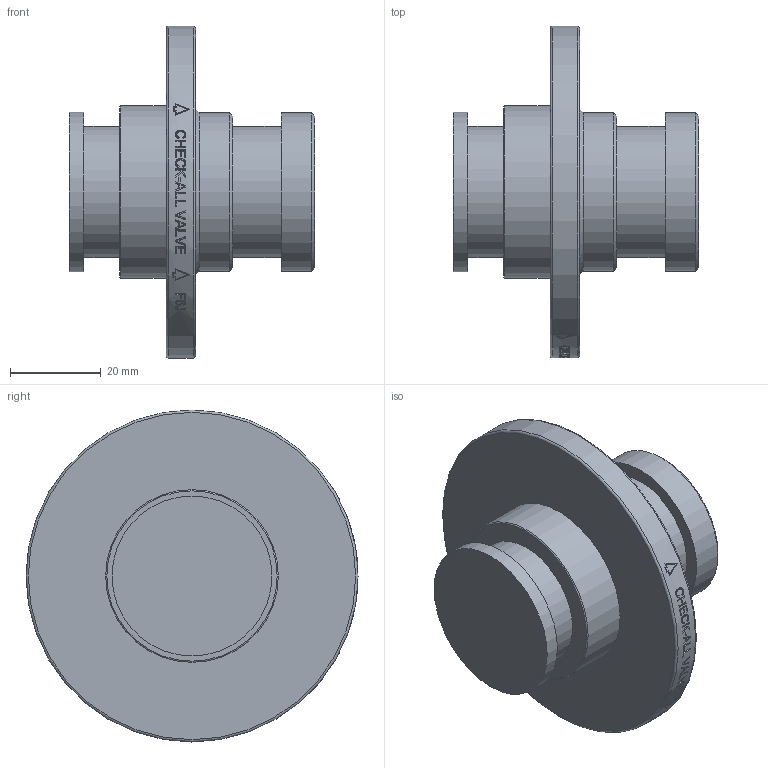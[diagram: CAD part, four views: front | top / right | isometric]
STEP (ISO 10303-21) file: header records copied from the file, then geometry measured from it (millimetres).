
FILE_DESCRIPTION( ( 'Unknown' ), '1' );
FILE_NAME( 'Y:/ENGR/3D Solid Edge Models/F6/F6 STEP/F6J.stp', 'Unknown', ( 'Unknown' ), ( 'Unknown' ), 'PSStep 14.0', 'Unknown', ' ' );
FILE_SCHEMA( ( 'AUTOMOTIVE_DESIGN { 1 0 10303 214 1 1 1 1 }' ) );
Length unit declared in the file: millimetre
Products named in the file (1): 1
Bounding box: 53.98 x 73.03 x 73.03 mm (x, y, z)
Volume: 68717.4 mm3; surface area: 15855.7 mm2
Topology: 1 solids, 1 shells, 205 faces, 513 edges, 340 vertices
Faces by surface type: plane 120, bspline 48, cylinder 31, torus 3, cone 3
Full cylindrical faces by diameter (mm): 28.829 x2, 34.925 x2, 35.179 x1, 37.973 x1, 73.025 x1
Entity records: 9324 total; most frequent: CARTESIAN_POINT 3886, ORIENTED_EDGE 998, EDGE_CURVE 499, B_SPLINE_CURVE_WITH_KNOTS 479, DIRECTION 356, VERTEX_POINT 340, EDGE_LOOP 249, FACE_OUTER_BOUND 216
